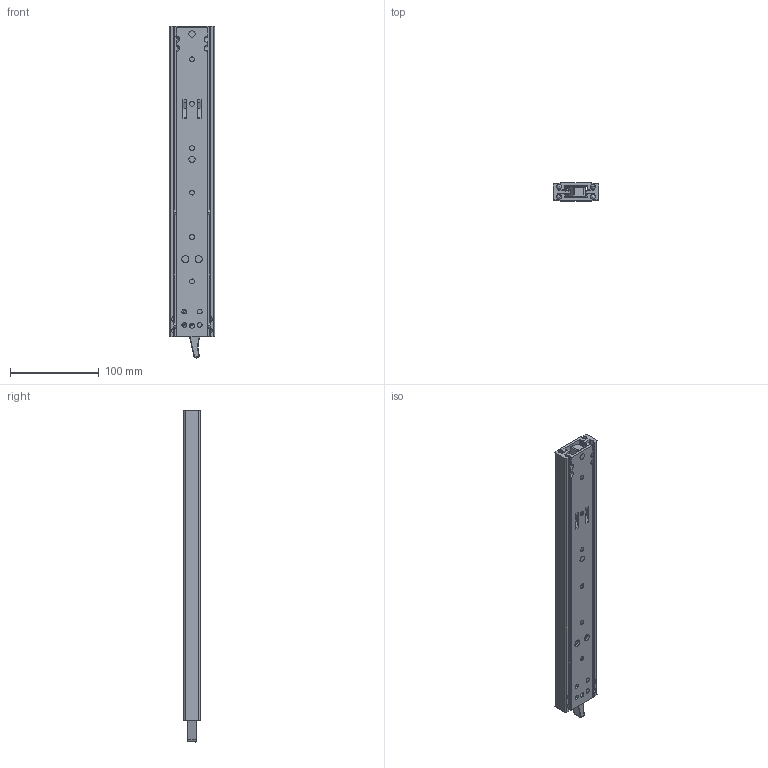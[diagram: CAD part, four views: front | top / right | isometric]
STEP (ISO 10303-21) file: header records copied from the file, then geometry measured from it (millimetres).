
FILE_DESCRIPTION (( 'STEP AP203' ), '1' );
FILE_NAME ('61_12285_04-closed.STEP', '2022-03-25T09:50:23', ( '' ), ( '' ), 'SwSTEP 2.0', 'SolidWorks 2021', '' );
FILE_SCHEMA (( 'CONFIG_CONTROL_DESIGN' ));
Length unit declared in the file: millimetre
Products named in the file (12): 61_12279_04; 61_12282; 61_12274; 61_12285_04-closed; 301_000_008_Fitted; 61_13331_Pin Fitted; 370_002_070; 61_12280_04_Beam Assembled - Stop Raises ; 61_12278_05; 61_12275; 61_12719; 400_000_004
Assembly tree (28 placements, depth 2):
  61_12285_04-closed
    61_12279_04
    61_12280_04_Beam Assembled - Stop Raises   x2
    61_13331_Pin Fitted  x4
    61_12282
    301_000_008_Fitted  x2
    61_12275
    61_12274
    370_002_070  x2
    61_12719  x2
    400_000_004  x8
    61_12278_05  x4
Bounding box: 50.7 x 19.75 x 373.68 mm (x, y, z)
Volume: 202870.8 mm3; surface area: 141881.2 mm2
Topology: 28 solids, 28 shells, 1132 faces, 3060 edges, 1895 vertices
Faces by surface type: cylinder 536, plane 277, sphere 105, torus 93, cone 76, bspline 45
Entity records: 26840 total; most frequent: CARTESIAN_POINT 6572, DIRECTION 4048, ORIENTED_EDGE 3854, EDGE_CURVE 1927, AXIS2_PLACEMENT_3D 1602, VERTEX_POINT 1186, EDGE_LOOP 865, CIRCLE 854
